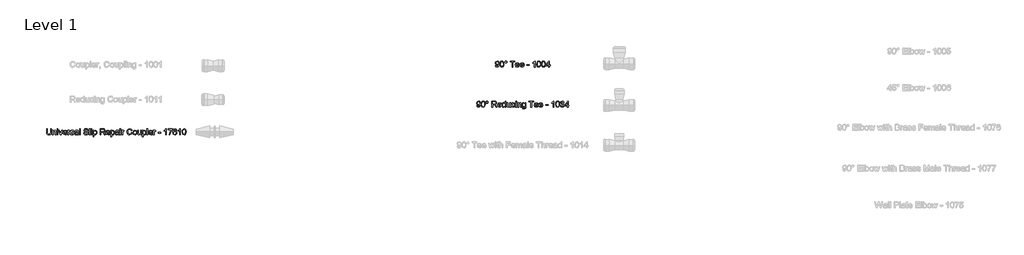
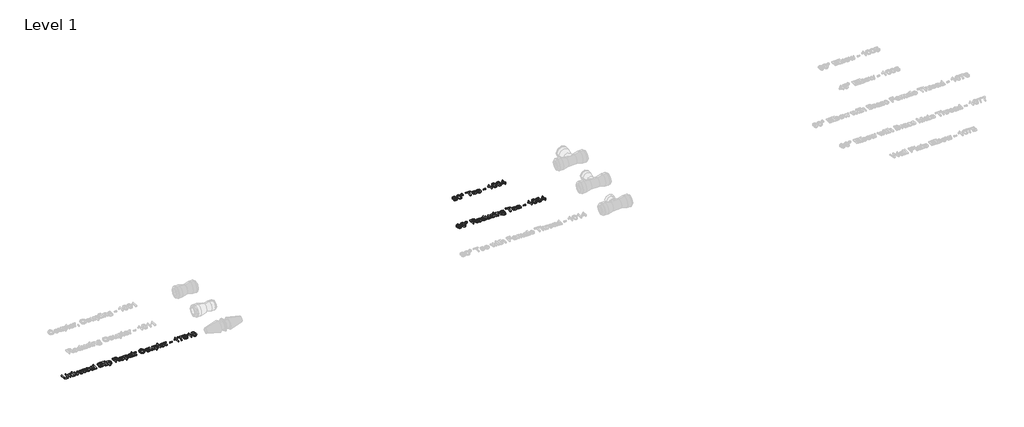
# One storey, part 2 of 13: 3 proxies.
"""IFC4 building model written with IfcOpenShell, lengths in millimetres."""

from ifc_helpers import new_model, si_unit, origin, origin_with_axes, place, context, project, spatial, polyline, outline, extrude, element, save

model = new_model("IFC4")

# Units and contexts
model_context = context("Model", 3, world=origin())
ifc_project = project(units=[si_unit("LENGTHUNIT", "METRE", prefix="MILLI")], contexts=[model_context])

# Site, building, storey
site = spatial("IfcSite", under=ifc_project)
building = spatial("IfcBuilding", under=site)
storey = spatial("IfcBuildingStorey", under=building, Name="Level 1", Elevation=0.0)

# Proxies
placement = place(None, origin())
element("IfcBuildingElementProxy", 1, Name="30 mm Arial", ObjectType="30 mm Arial", at=placement, inside=storey, context=model_context, shape_type="SweptSolid", body=[
    extrude(outline(polyline([(10167.5679255, 4651.4824027), (10171.2602332, 4651.9439412), (10172.9188871, 4648.4211046), (10176.0631178, 4647.3285566), (10179.0523005, 4648.0316816), (10181.0787428, 4649.9102873), (10182.2866755, 4653.119422), (10182.8203294, 4657.4030758), (10179.8455697, 4655.3261527), (10175.7962909, 4654.2516335), (10169.6268197, 4656.8766335), (10167.1063871, 4663.7924989), (10169.7494159, 4670.931922), (10176.373214, 4673.6362489), (10181.6340313, 4672.0929796), (10185.2542236, 4667.6939412), (10186.4910024, 4659.4295181), (10185.2578294, 4650.46197), (10181.5907621, 4645.3814412), (10175.8900409, 4643.6362489), (10170.2145601, 4645.6951431), (10167.5679255, 4651.4824027)]), holes=[polyline([(10182.7986947, 4663.8790373), (10181.2049447, 4668.306922), (10176.9717717, 4669.9439412), (10172.529464, 4668.18072), (10170.7986947, 4663.6122104), (10172.435714, 4659.5196623), (10176.8708101, 4657.9439412), (10181.1292236, 4659.5196623), (10182.7986947, 4663.8790373)])]), origin_with_axes(), (0.0, 0.0, 1.0), 5.0),
    extrude(outline(polyline([(10189.7217717, 4658.6290373), (10190.8071082, 4667.1278354), (10194.0306659, 4672.0280758), (10199.4140794, 4673.6362489), (10203.7265794, 4672.6843258), (10206.7049447, 4669.9403354), (10208.435714, 4665.5701431), (10209.1063871, 4658.6290373), (10208.0318678, 4650.166297), (10204.8191274, 4645.2552393), (10199.4140794, 4643.6362489), (10192.6640794, 4646.4487489), (10189.7217717, 4658.6290373)]), holes=[polyline([(10193.4140794, 4658.6362489), (10195.1448486, 4649.4667777), (10199.4140794, 4647.3285566), (10203.6833101, 4649.4739893), (10205.4140794, 4658.6362489), (10203.7410024, 4667.7011527), (10199.3708101, 4669.9439412), (10195.2025409, 4667.9679796), (10193.4140794, 4658.6362489)])]), origin_with_axes(), (0.0, 0.0, 1.0), 5.0),
    extrude(outline(polyline([(10213.2602332, 4668.5665373), (10214.8864351, 4672.4824027), (10218.7914832, 4674.0977873), (10222.7217717, 4672.4824027), (10224.3371563, 4668.5665373), (10222.7109544, 4664.6470662), (10218.7914832, 4663.0208643), (10214.8864351, 4664.6362489), (10213.2602332, 4668.5665373)]), holes=[polyline([(10215.5679255, 4668.5593258), (10216.5162428, 4666.2732681), (10218.8059063, 4665.3285566), (10221.0811467, 4666.2732681), (10222.029464, 4668.5593258), (10221.0811467, 4670.8453835), (10218.8059063, 4671.790095), (10216.5162428, 4670.8453835), (10215.5679255, 4668.5593258)])]), origin_with_axes(), (0.0, 0.0, 1.0), 5.0),
    extrude(outline(polyline([(10241.8756178, 4644.0977873), (10241.8756178, 4673.6362489), (10254.6039832, 4673.6362489), (10260.513839, 4672.8393739), (10263.7446082, 4670.0196623), (10264.9525409, 4665.5521143), (10262.951339, 4660.2299989), (10256.7674447, 4657.4824027), (10258.8660024, 4655.9030758), (10261.8587909, 4652.102595), (10266.7842717, 4644.0977873), (10262.4934063, 4644.0977873), (10258.6496563, 4650.2203835), (10255.873214, 4654.2732681), (10253.9224928, 4656.1879316), (10252.1664832, 4656.8910566), (10250.0246563, 4657.0208643), (10245.5679255, 4657.0208643), (10245.5679255, 4644.0977873), (10241.8756178, 4644.0977873)]), holes=[polyline([(10245.5679255, 4660.713172), (10253.8323486, 4660.713172), (10258.0474928, 4661.2360085), (10260.4417236, 4662.9090854), (10261.2602332, 4665.415095), (10259.6989351, 4668.6674989), (10254.7626371, 4669.9439412), (10245.5679255, 4669.9439412), (10245.5679255, 4660.713172)])]), origin_with_axes(), (0.0, 0.0, 1.0), 5.0),
    extrude(outline(polyline([(10286.1400409, 4650.5593258), (10289.7602332, 4650.0977873), (10286.3744159, 4645.3309604), (10280.0679255, 4643.6362489), (10272.4020601, 4646.5605277), (10269.5679255, 4654.7636527), (10272.4309063, 4663.2372104), (10279.8587909, 4666.2516335), (10287.0739351, 4663.244422), (10289.8756178, 4654.7852873), (10273.2602332, 4653.790095), (10275.3840313, 4648.994422), (10280.1400409, 4647.3285566), (10283.7602332, 4648.1001912), (10286.1400409, 4650.5593258)]), holes=[polyline([(10273.2602332, 4657.4824027), (10286.1833101, 4657.4824027), (10284.7049447, 4660.8285566), (10279.8443678, 4662.5593258), (10275.2974928, 4661.1783162), (10273.2602332, 4657.4824027)])]), origin_with_axes(), (0.0, 0.0, 1.0), 5.0),
    extrude(outline(polyline([(10306.9525409, 4644.0977873), (10306.9525409, 4647.5809604), (10301.1328294, 4643.6362489), (10296.560714, 4645.0641335), (10293.3299447, 4649.0485085), (10292.1833101, 4654.9223066), (10293.2398005, 4660.7997104), (10296.4056659, 4664.8453835), (10301.1184063, 4666.2516335), (10304.5222524, 4665.2456239), (10306.9525409, 4662.6314412), (10306.9525409, 4673.6362489), (10310.6448486, 4673.6362489), (10310.6448486, 4644.0977873), (10306.9525409, 4644.0977873)]), holes=[polyline([(10295.8756178, 4654.9367296), (10297.5414832, 4649.2215854), (10301.4717717, 4647.3285566), (10305.3551851, 4649.135047), (10306.9525409, 4654.6554796), (10305.326339, 4660.6482681), (10301.3203294, 4662.5593258), (10297.4333101, 4660.7239893), (10295.8756178, 4654.9367296)])]), origin_with_axes(), (0.0, 0.0, 1.0), 5.0),
    extrude(outline(polyline([(10330.029464, 4644.0977873), (10330.029464, 4647.8261527), (10323.3660024, 4643.6362489), (10319.8936467, 4644.3718258), (10317.4994159, 4646.2179796), (10316.3996563, 4648.9367296), (10316.1833101, 4652.369422), (10316.1833101, 4665.790095), (10319.8756178, 4665.790095), (10319.8756178, 4654.1074027), (10320.0991755, 4650.3429796), (10321.5595121, 4648.1326431), (10324.310714, 4647.3285566), (10327.3936467, 4648.150672), (10329.4309063, 4650.3898546), (10330.029464, 4654.5040373), (10330.029464, 4665.790095), (10333.7217717, 4665.790095), (10333.7217717, 4644.0977873), (10330.029464, 4644.0977873)])), origin_with_axes(), (0.0, 0.0, 1.0), 5.0),
    extrude(outline(polyline([(10352.6448486, 4651.9439412), (10356.3371563, 4651.4824027), (10353.373214, 4645.7167777), (10347.5174447, 4643.6362489), (10340.5186467, 4646.5388931), (10337.8756178, 4654.8646143), (10339.0042236, 4660.9980277), (10342.4441274, 4664.9391335), (10347.466964, 4666.2516335), (10353.0811467, 4664.4487489), (10355.8756178, 4659.3285566), (10352.1833101, 4658.8670181), (10350.4705697, 4661.6326431), (10347.4958101, 4662.5593258), (10343.2157621, 4660.7348066), (10341.5679255, 4654.9655758), (10343.1797044, 4649.1422585), (10347.3948486, 4647.3285566), (10350.8744159, 4648.4607681), (10352.6448486, 4651.9439412)])), origin_with_axes(), (0.0, 0.0, 1.0), 5.0),
    extrude(outline(polyline([(10359.5679255, 4669.9439412), (10359.5679255, 4673.6362489), (10363.2602332, 4673.6362489), (10363.2602332, 4669.9439412), (10359.5679255, 4669.9439412)])), origin_with_axes(), (0.0, 0.0, 1.0), 5.0),
    extrude(outline(polyline([(10359.5679255, 4644.0977873), (10359.5679255, 4665.790095), (10363.2602332, 4665.790095), (10363.2602332, 4644.0977873), (10359.5679255, 4644.0977873)])), origin_with_axes(), (0.0, 0.0, 1.0), 5.0),
    extrude(outline(polyline([(10368.7986947, 4644.0977873), (10368.7986947, 4665.790095), (10372.4910024, 4665.790095), (10372.4910024, 4662.7612489), (10379.1688871, 4666.2516335), (10382.6556659, 4665.5485085), (10385.0354736, 4663.7023546), (10386.1424447, 4660.9872104), (10386.3371563, 4657.4174989), (10386.3371563, 4644.0977873), (10382.6448486, 4644.0977873), (10382.6448486, 4656.9199027), (10382.2193678, 4660.1867296), (10380.7157621, 4661.9138931), (10378.1809063, 4662.5593258), (10374.1748967, 4661.1098066), (10372.4910024, 4655.6074027), (10372.4910024, 4644.0977873), (10368.7986947, 4644.0977873)])), origin_with_axes(), (0.0, 0.0, 1.0), 5.0),
    extrude(outline(polyline([(10390.4910024, 4642.2516335), (10394.1833101, 4641.790095), (10395.3804255, 4639.8429796), (10398.9645601, 4639.0208643), (10402.7434063, 4639.9511527), (10404.5462909, 4642.5617296), (10404.7986947, 4646.8670181), (10399.029464, 4644.0977873), (10392.3840313, 4647.321345), (10390.029464, 4655.0521143), (10391.0859544, 4660.77447), (10394.1436467, 4664.8237489), (10398.8491755, 4666.2516335), (10404.7986947, 4663.0208643), (10404.7986947, 4665.790095), (10408.4910024, 4665.790095), (10408.4910024, 4647.0617296), (10407.4813871, 4639.8898546), (10404.2830697, 4636.5545181), (10398.8924447, 4635.3285566), (10392.7518197, 4637.05572), (10390.4910024, 4642.2516335)]), holes=[polyline([(10393.7217717, 4655.3045181), (10395.2974928, 4649.5893739), (10399.2530217, 4647.790095), (10403.201339, 4649.5785566), (10404.7986947, 4655.196345), (10403.154464, 4660.7023546), (10399.1953294, 4662.5593258), (10395.3191274, 4660.7312008), (10393.7217717, 4655.3045181)])]), origin_with_axes(), (0.0, 0.0, 1.0), 5.0),
    extrude(outline(polyline([(10433.4140794, 4644.0977873), (10433.4140794, 4669.9439412), (10423.7217717, 4669.9439412), (10423.7217717, 4673.6362489), (10446.7986947, 4673.6362489), (10446.7986947, 4669.9439412), (10437.1063871, 4669.9439412), (10437.1063871, 4644.0977873), (10433.4140794, 4644.0977873)])), origin_with_axes(), (0.0, 0.0, 1.0), 5.0),
    extrude(outline(polyline([(10465.6785024, 4650.5593258), (10469.2986947, 4650.0977873), (10465.9128774, 4645.3309604), (10459.6063871, 4643.6362489), (10451.9405217, 4646.5605277), (10449.1063871, 4654.7636527), (10451.9693678, 4663.2372104), (10459.3972524, 4666.2516335), (10466.6123967, 4663.244422), (10469.4140794, 4654.7852873), (10452.7986947, 4653.790095), (10454.9224928, 4648.994422), (10459.6785024, 4647.3285566), (10463.2986947, 4648.1001912), (10465.6785024, 4650.5593258)]), holes=[polyline([(10452.7986947, 4657.4824027), (10465.7217717, 4657.4824027), (10464.2434063, 4660.8285566), (10459.3828294, 4662.5593258), (10454.8359544, 4661.1783162), (10452.7986947, 4657.4824027)])]), origin_with_axes(), (0.0, 0.0, 1.0), 5.0),
    extrude(outline(polyline([(10488.2938871, 4650.5593258), (10491.9140794, 4650.0977873), (10488.5282621, 4645.3309604), (10482.2217717, 4643.6362489), (10474.5559063, 4646.5605277), (10471.7217717, 4654.7636527), (10474.5847524, 4663.2372104), (10482.0126371, 4666.2516335), (10489.2277813, 4663.244422), (10492.029464, 4654.7852873), (10475.4140794, 4653.790095), (10477.5378774, 4648.994422), (10482.2938871, 4647.3285566), (10485.9140794, 4648.1001912), (10488.2938871, 4650.5593258)]), holes=[polyline([(10475.4140794, 4657.4824027), (10488.3371563, 4657.4824027), (10486.8587909, 4660.8285566), (10481.998214, 4662.5593258), (10477.451339, 4661.1783162), (10475.4140794, 4657.4824027)])]), origin_with_axes(), (0.0, 0.0, 1.0), 5.0),
    extrude(outline(polyline([(10505.4140794, 4652.8670181), (10505.4140794, 4656.5593258), (10516.9525409, 4656.5593258), (10516.9525409, 4652.8670181), (10505.4140794, 4652.8670181)])), origin_with_axes(), (0.0, 0.0, 1.0), 5.0),
    extrude(outline(polyline([(10545.5679255, 4644.0977873), (10541.8756178, 4644.0977873), (10541.8756178, 4667.1170181), (10538.3780217, 4664.6254316), (10534.4910024, 4662.7612489), (10534.4910024, 4666.2516335), (10539.9032621, 4669.7059604), (10543.1881178, 4673.6362489), (10545.5679255, 4673.6362489), (10545.5679255, 4644.0977873)])), origin_with_axes(), (0.0, 0.0, 1.0), 5.0),
    extrude(outline(polyline([(10554.3371563, 4658.6290373), (10555.4224928, 4667.1278354), (10558.6460505, 4672.0280758), (10564.029464, 4673.6362489), (10568.341964, 4672.6843258), (10571.3203294, 4669.9403354), (10573.0510986, 4665.5701431), (10573.7217717, 4658.6290373), (10572.6472524, 4650.166297), (10569.4345121, 4645.2552393), (10564.029464, 4643.6362489), (10557.279464, 4646.4487489), (10554.3371563, 4658.6290373)]), holes=[polyline([(10558.029464, 4658.6362489), (10559.7602332, 4649.4667777), (10564.029464, 4647.3285566), (10568.2986947, 4649.4739893), (10570.029464, 4658.6362489), (10568.3563871, 4667.7011527), (10563.9861947, 4669.9439412), (10559.8179255, 4667.9679796), (10558.029464, 4658.6362489)])]), origin_with_axes(), (0.0, 0.0, 1.0), 5.0),
    extrude(outline(polyline([(10576.9525409, 4651.9439412), (10580.6448486, 4652.4054796), (10582.6821082, 4648.5184604), (10586.4934063, 4647.3285566), (10590.9789832, 4648.9655758), (10592.6448486, 4653.0184604), (10590.9934063, 4656.83697), (10586.7962909, 4658.3477873), (10584.2073486, 4657.9439412), (10584.6184063, 4661.6362489), (10589.3996563, 4662.6530758), (10591.2602332, 4665.9126912), (10589.9116755, 4668.8009123), (10586.435714, 4669.9439412), (10582.9164832, 4668.790095), (10581.1063871, 4665.3285566), (10577.4140794, 4665.790095), (10580.435714, 4671.5809604), (10586.3059063, 4673.6362489), (10590.7590313, 4672.6230277), (10593.8744159, 4669.853797), (10594.9525409, 4666.1290373), (10593.9285024, 4662.7251912), (10590.8996563, 4660.2804796), (10594.9236947, 4657.7564412), (10596.3371563, 4652.9535566), (10593.5102332, 4646.3477873), (10586.3635986, 4643.6362489), (10579.8876371, 4645.9511527), (10576.9525409, 4651.9439412)])), origin_with_axes(), (0.0, 0.0, 1.0), 5.0),
    extrude(outline(polyline([(10611.5679255, 4644.0977873), (10611.5679255, 4651.0208643), (10598.1833101, 4651.0208643), (10598.1833101, 4654.713172), (10612.4910024, 4673.1747104), (10615.2602332, 4673.1747104), (10615.2602332, 4654.713172), (10618.9525409, 4654.713172), (10618.9525409, 4651.0208643), (10615.2602332, 4651.0208643), (10615.2602332, 4644.0977873), (10611.5679255, 4644.0977873)]), holes=[polyline([(10611.5679255, 4654.713172), (10611.5679255, 4666.1218258), (10602.7265794, 4654.713172), (10611.5679255, 4654.713172)])]), origin_with_axes(), (0.0, 0.0, 1.0), 5.0),
])
element("IfcBuildingElementProxy", 2, Name="30 mm Arial", ObjectType="30 mm Arial", at=placement, inside=storey, context=model_context, shape_type="SweptSolid", body=[
    extrude(outline(polyline([(8081.7590852, 4538.436417), (8085.4513928, 4538.436417), (8085.4513928, 4521.3955516), (8084.448989, 4514.3318497), (8080.8360082, 4510.077042), (8073.9850467, 4508.436417), (8067.2386525, 4509.8643016), (8063.495864, 4514.0001189), (8062.3744698, 4521.3955516), (8062.3744698, 4538.436417), (8066.0667775, 4538.436417), (8066.0667775, 4521.5253593), (8066.7951428, 4515.8967535), (8069.2975467, 4513.1094939), (8073.6388928, 4512.1287247), (8079.8912967, 4514.0686285), (8081.7590852, 4521.5253593), (8081.7590852, 4538.436417)])), origin_with_axes(), (0.0, 0.0, 1.0), 5.0),
    extrude(outline(polyline([(8091.4513928, 4508.8979554), (8091.4513928, 4530.5902631), (8095.1437005, 4530.5902631), (8095.1437005, 4527.561417), (8101.8215852, 4531.0518016), (8105.308364, 4530.3486766), (8107.6881717, 4528.5025227), (8108.7951428, 4525.7873785), (8108.9898544, 4522.217667), (8108.9898544, 4508.8979554), (8105.2975467, 4508.8979554), (8105.2975467, 4521.7200708), (8104.8720659, 4524.9868977), (8103.3684602, 4526.7140612), (8100.8336044, 4527.3594939), (8096.8275948, 4525.9099747), (8095.1437005, 4520.4075708), (8095.1437005, 4508.8979554), (8091.4513928, 4508.8979554)])), origin_with_axes(), (0.0, 0.0, 1.0), 5.0),
    extrude(outline(polyline([(8114.0667775, 4534.7441093), (8114.0667775, 4538.436417), (8117.7590852, 4538.436417), (8117.7590852, 4534.7441093), (8114.0667775, 4534.7441093)])), origin_with_axes(), (0.0, 0.0, 1.0), 5.0),
    extrude(outline(polyline([(8114.0667775, 4508.8979554), (8114.0667775, 4530.5902631), (8117.7590852, 4530.5902631), (8117.7590852, 4508.8979554), (8114.0667775, 4508.8979554)])), origin_with_axes(), (0.0, 0.0, 1.0), 5.0),
    extrude(outline(polyline([(8128.6196621, 4508.8979554), (8120.9898544, 4530.5902631), (8124.8985082, 4530.5902631), (8129.5211044, 4517.5950708), (8130.9129313, 4513.2248785), (8132.2759121, 4517.3498785), (8136.9273544, 4530.5902631), (8140.8360082, 4530.5902631), (8133.2999505, 4508.8979554), (8128.6196621, 4508.8979554)])), origin_with_axes(), (0.0, 0.0, 1.0), 5.0),
    extrude(outline(polyline([(8159.2542775, 4515.3594939), (8162.8744698, 4514.8979554), (8159.4886525, 4510.1311285), (8153.1821621, 4508.436417), (8145.5162967, 4511.3606958), (8142.6821621, 4519.5638208), (8145.5451428, 4528.0373785), (8152.9730275, 4531.0518016), (8160.1881717, 4528.0445901), (8162.9898544, 4519.5854554), (8146.3744698, 4518.5902631), (8148.4982678, 4513.7945901), (8153.2542775, 4512.1287247), (8156.8744698, 4512.9003593), (8159.2542775, 4515.3594939)]), holes=[polyline([(8146.3744698, 4522.2825708), (8159.2975467, 4522.2825708), (8157.8191813, 4525.6287247), (8152.9586044, 4527.3594939), (8148.4117294, 4525.9784843), (8146.3744698, 4522.2825708)])]), origin_with_axes(), (0.0, 0.0, 1.0), 5.0),
    extrude(outline(polyline([(8166.6821621, 4508.8979554), (8166.6821621, 4530.5902631), (8169.9129313, 4530.5902631), (8169.9129313, 4527.3811285), (8172.2062005, 4530.3378593), (8174.5138928, 4531.0518016), (8178.2206236, 4529.9123785), (8176.9874505, 4526.6022824), (8174.3912967, 4527.3594939), (8172.3035563, 4526.6311285), (8170.9730275, 4524.6118977), (8170.3744698, 4520.2993977), (8170.3744698, 4508.8979554), (8166.6821621, 4508.8979554)])), origin_with_axes(), (0.0, 0.0, 1.0), 5.0),
    extrude(outline(polyline([(8179.1437005, 4515.3594939), (8182.8360082, 4515.8210324), (8184.5451428, 4513.0806477), (8188.4610082, 4512.1287247), (8192.2254313, 4513.0013208), (8193.4513928, 4515.0493977), (8192.2182198, 4516.7080516), (8188.417739, 4517.7609362), (8182.8576428, 4519.5674266), (8180.4309602, 4521.6768016), (8179.605239, 4524.655167), (8180.2687005, 4527.4063689), (8182.0787967, 4529.5085324), (8184.4261525, 4530.6010804), (8187.6028352, 4531.0518016), (8192.0956236, 4530.327042), (8194.9513928, 4528.3655035), (8196.2206236, 4525.0518016), (8192.5283159, 4524.5902631), (8191.1400948, 4526.6275227), (8187.8912967, 4527.3594939), (8184.3576428, 4526.6599747), (8183.2975467, 4525.030167), (8185.1148544, 4523.1407439), (8188.2951428, 4522.3546862), (8193.714614, 4520.6167054), (8196.2314409, 4518.6479554), (8197.1437005, 4515.4388208), (8196.0727871, 4511.905167), (8192.9826428, 4509.3414651), (8188.4105275, 4508.436417), (8181.9706236, 4510.1816093), (8179.1437005, 4515.3594939)])), origin_with_axes(), (0.0, 0.0, 1.0), 5.0),
    extrude(outline(polyline([(8215.1437005, 4511.6671862), (8211.5631717, 4509.1647824), (8207.6076428, 4508.436417), (8202.245864, 4510.1888208), (8200.3744698, 4514.6671862), (8201.0812005, 4517.5878593), (8202.9381717, 4519.7080516), (8205.5235082, 4520.9195901), (8208.7182198, 4521.4748785), (8215.1220659, 4522.7441093), (8214.1268736, 4526.2921862), (8210.0451428, 4527.3594939), (8206.3095659, 4526.6491574), (8204.5283159, 4524.1287247), (8200.8360082, 4524.5902631), (8202.433364, 4528.1960324), (8205.6497102, 4530.3090131), (8210.5211044, 4531.0518016), (8214.995864, 4530.3955516), (8217.5235082, 4528.7477151), (8218.6557198, 4526.2417054), (8218.8360082, 4523.0109362), (8218.8360082, 4518.4171862), (8219.0235082, 4512.0025227), (8219.7590852, 4508.8979554), (8216.0667775, 4508.8979554), (8215.1437005, 4511.6671862)]), holes=[polyline([(8215.1328832, 4518.5289651), (8209.1869698, 4517.9195901), (8206.0102871, 4517.3210324), (8204.5715852, 4516.3474747), (8205.1665371, 4512.9292054), (8208.3937005, 4512.1287247), (8212.1292775, 4513.0121381), (8214.5379313, 4515.1503593), (8215.1328832, 4518.5289651)])]), origin_with_axes(), (0.0, 0.0, 1.0), 5.0),
    extrude(outline(polyline([(8223.9129313, 4508.8979554), (8223.9129313, 4538.436417), (8227.605239, 4538.436417), (8227.605239, 4508.8979554), (8223.9129313, 4508.8979554)])), origin_with_axes(), (0.0, 0.0, 1.0), 5.0),
    extrude(outline(polyline([(8243.7590852, 4519.0518016), (8247.4513928, 4519.0518016), (8248.6412967, 4515.3558881), (8251.5475467, 4513.0193497), (8255.9754313, 4512.1287247), (8259.8336044, 4512.8030035), (8262.3251909, 4514.6563689), (8263.1437005, 4517.1335324), (8262.5307198, 4519.4376189), (8260.0211044, 4521.1143016), (8254.6449025, 4522.5241574), (8248.8576428, 4524.3450708), (8245.7170178, 4527.092667), (8244.6821621, 4530.7633401), (8245.9622102, 4534.9424266), (8249.7013928, 4537.8919458), (8255.1749505, 4538.8979554), (8261.0162967, 4537.8450708), (8264.9105275, 4534.7513208), (8266.3744698, 4530.1287247), (8262.6821621, 4530.1287247), (8260.5908159, 4533.9219939), (8255.3191813, 4535.2056477), (8250.0331236, 4533.936417), (8248.3744698, 4530.8715131), (8249.5499505, 4528.311417), (8255.5787967, 4526.248917), (8262.1124505, 4524.3955516), (8265.6857678, 4521.4027631), (8266.8360082, 4517.2272824), (8265.5126909, 4512.8102151), (8261.7049986, 4509.5866574), (8256.1196621, 4508.436417), (8249.5247102, 4509.6768016), (8245.3528352, 4513.4123785), (8243.7590852, 4519.0518016)])), origin_with_axes(), (0.0, 0.0, 1.0), 5.0),
    extrude(outline(polyline([(8271.9129313, 4508.8979554), (8271.9129313, 4538.436417), (8275.605239, 4538.436417), (8275.605239, 4508.8979554), (8271.9129313, 4508.8979554)])), origin_with_axes(), (0.0, 0.0, 1.0), 5.0),
    extrude(outline(polyline([(8281.1437005, 4534.7441093), (8281.1437005, 4538.436417), (8284.8360082, 4538.436417), (8284.8360082, 4534.7441093), (8281.1437005, 4534.7441093)])), origin_with_axes(), (0.0, 0.0, 1.0), 5.0),
    extrude(outline(polyline([(8281.1437005, 4508.8979554), (8281.1437005, 4530.5902631), (8284.8360082, 4530.5902631), (8284.8360082, 4508.8979554), (8281.1437005, 4508.8979554)])), origin_with_axes(), (0.0, 0.0, 1.0), 5.0),
    extrude(outline(polyline([(8290.3744698, 4500.5902631), (8290.3744698, 4530.5902631), (8294.0667775, 4530.5902631), (8294.0667775, 4526.9700708), (8296.6196621, 4530.0313689), (8300.0667775, 4531.0518016), (8304.7470659, 4529.623917), (8307.8047582, 4525.5998785), (8308.8360082, 4519.9099747), (8307.6713448, 4513.9280035), (8304.2891332, 4509.8534843), (8299.6196621, 4508.436417), (8296.4069217, 4509.3847343), (8294.0667775, 4511.7825708), (8294.0667775, 4500.5902631), (8290.3744698, 4500.5902631)]), holes=[polyline([(8294.0667775, 4519.5710324), (8295.6641332, 4513.9460324), (8299.5403352, 4512.1287247), (8303.495864, 4514.0109362), (8305.1437005, 4519.8450708), (8303.5355275, 4525.4844939), (8299.6917775, 4527.3594939), (8295.7723063, 4525.3655035), (8294.0667775, 4519.5710324)])]), origin_with_axes(), (0.0, 0.0, 1.0), 5.0),
    extrude(outline(polyline([(8324.9898544, 4508.8979554), (8324.9898544, 4538.436417), (8337.7182198, 4538.436417), (8343.6280755, 4537.639542), (8346.8588448, 4534.8198304), (8348.0667775, 4530.3522824), (8346.0655755, 4525.030167), (8339.8816813, 4522.2825708), (8341.980239, 4520.7032439), (8344.9730275, 4516.9027631), (8349.8985082, 4508.8979554), (8345.6076428, 4508.8979554), (8341.7638928, 4515.0205516), (8338.9874505, 4519.0734362), (8337.0367294, 4520.9880997), (8335.2807198, 4521.6912247), (8333.1388928, 4521.8210324), (8328.6821621, 4521.8210324), (8328.6821621, 4508.8979554), (8324.9898544, 4508.8979554)]), holes=[polyline([(8328.6821621, 4525.5133401), (8336.9465852, 4525.5133401), (8341.1617294, 4526.0361766), (8343.5559602, 4527.7092535), (8344.3744698, 4530.2152631), (8342.8131717, 4533.467667), (8337.8768736, 4534.7441093), (8328.6821621, 4534.7441093), (8328.6821621, 4525.5133401)])]), origin_with_axes(), (0.0, 0.0, 1.0), 5.0),
    extrude(outline(polyline([(8369.2542775, 4515.3594939), (8372.8744698, 4514.8979554), (8369.4886525, 4510.1311285), (8363.1821621, 4508.436417), (8355.5162967, 4511.3606958), (8352.6821621, 4519.5638208), (8355.5451428, 4528.0373785), (8362.9730275, 4531.0518016), (8370.1881717, 4528.0445901), (8372.9898544, 4519.5854554), (8356.3744698, 4518.5902631), (8358.4982678, 4513.7945901), (8363.2542775, 4512.1287247), (8366.8744698, 4512.9003593), (8369.2542775, 4515.3594939)]), holes=[polyline([(8356.3744698, 4522.2825708), (8369.2975467, 4522.2825708), (8367.8191813, 4525.6287247), (8362.9586044, 4527.3594939), (8358.4117294, 4525.9784843), (8356.3744698, 4522.2825708)])]), origin_with_axes(), (0.0, 0.0, 1.0), 5.0),
    extrude(outline(polyline([(8376.6821621, 4500.5902631), (8376.6821621, 4530.5902631), (8380.3744698, 4530.5902631), (8380.3744698, 4526.9700708), (8382.9273544, 4530.0313689), (8386.3744698, 4531.0518016), (8391.0547582, 4529.623917), (8394.1124505, 4525.5998785), (8395.1437005, 4519.9099747), (8393.9790371, 4513.9280035), (8390.5968255, 4509.8534843), (8385.9273544, 4508.436417), (8382.714614, 4509.3847343), (8380.3744698, 4511.7825708), (8380.3744698, 4500.5902631), (8376.6821621, 4500.5902631)]), holes=[polyline([(8380.3744698, 4519.5710324), (8381.9718255, 4513.9460324), (8385.8480275, 4512.1287247), (8389.8035563, 4514.0109362), (8391.4513928, 4519.8450708), (8389.8432198, 4525.4844939), (8385.9994698, 4527.3594939), (8382.0799986, 4525.3655035), (8380.3744698, 4519.5710324)])]), origin_with_axes(), (0.0, 0.0, 1.0), 5.0),
    extrude(outline(polyline([(8413.1437005, 4511.6671862), (8409.5631717, 4509.1647824), (8405.6076428, 4508.436417), (8400.245864, 4510.1888208), (8398.3744698, 4514.6671862), (8399.0812005, 4517.5878593), (8400.9381717, 4519.7080516), (8403.5235082, 4520.9195901), (8406.7182198, 4521.4748785), (8413.1220659, 4522.7441093), (8412.1268736, 4526.2921862), (8408.0451428, 4527.3594939), (8404.3095659, 4526.6491574), (8402.5283159, 4524.1287247), (8398.8360082, 4524.5902631), (8400.433364, 4528.1960324), (8403.6497102, 4530.3090131), (8408.5211044, 4531.0518016), (8412.995864, 4530.3955516), (8415.5235082, 4528.7477151), (8416.6557198, 4526.2417054), (8416.8360082, 4523.0109362), (8416.8360082, 4518.4171862), (8417.0235082, 4512.0025227), (8417.7590852, 4508.8979554), (8414.0667775, 4508.8979554), (8413.1437005, 4511.6671862)]), holes=[polyline([(8413.1328832, 4518.5289651), (8407.1869698, 4517.9195901), (8404.0102871, 4517.3210324), (8402.5715852, 4516.3474747), (8403.1665371, 4512.9292054), (8406.3937005, 4512.1287247), (8410.1292775, 4513.0121381), (8412.5379313, 4515.1503593), (8413.1328832, 4518.5289651)])]), origin_with_axes(), (0.0, 0.0, 1.0), 5.0),
    extrude(outline(polyline([(8421.9129313, 4508.8979554), (8421.9129313, 4530.5902631), (8425.605239, 4530.5902631), (8425.605239, 4508.8979554), (8421.9129313, 4508.8979554)])), origin_with_axes(), (0.0, 0.0, 1.0), 5.0),
    extrude(outline(polyline([(8421.9129313, 4534.7441093), (8421.9129313, 4538.436417), (8425.605239, 4538.436417), (8425.605239, 4534.7441093), (8421.9129313, 4534.7441093)])), origin_with_axes(), (0.0, 0.0, 1.0), 5.0),
    extrude(outline(polyline([(8431.1437005, 4508.8979554), (8431.1437005, 4530.5902631), (8434.3744698, 4530.5902631), (8434.3744698, 4527.3811285), (8436.667739, 4530.3378593), (8438.9754313, 4531.0518016), (8442.6821621, 4529.9123785), (8441.448989, 4526.6022824), (8438.8528352, 4527.3594939), (8436.7650948, 4526.6311285), (8435.4345659, 4524.6118977), (8434.8360082, 4520.2993977), (8434.8360082, 4508.8979554), (8431.1437005, 4508.8979554)])), origin_with_axes(), (0.0, 0.0, 1.0), 5.0),
    extrude(outline(polyline([(8477.7590852, 4519.3979554), (8481.4513928, 4518.4460324), (8477.073989, 4511.0001189), (8469.3432198, 4508.436417), (8461.6593255, 4510.3763208), (8457.152114, 4515.9941093), (8455.605239, 4523.8907439), (8457.3540371, 4531.9171862), (8462.3263928, 4537.1203112), (8469.4225467, 4538.8979554), (8476.8179794, 4536.5974747), (8480.9898544, 4530.1215131), (8477.2975467, 4529.2417054), (8474.2687005, 4533.7813689), (8469.2783159, 4535.2056477), (8463.5018736, 4533.6263208), (8460.2386525, 4529.3859362), (8459.2975467, 4523.8979554), (8460.4117294, 4517.5373785), (8463.8804794, 4513.4736766), (8468.9754313, 4512.1287247), (8474.6256717, 4513.9604554), (8477.7590852, 4519.3979554)])), origin_with_axes(), (0.0, 0.0, 1.0), 5.0),
    extrude(outline(polyline([(8485.1437005, 4519.7441093), (8488.3384121, 4528.6503593), (8494.8432198, 4531.0518016), (8501.8203832, 4528.1275227), (8504.5283159, 4520.0469939), (8503.3312005, 4513.4772824), (8499.8444217, 4509.7597343), (8494.8432198, 4508.436417), (8487.8227871, 4511.3498785), (8485.1437005, 4519.7441093)]), holes=[polyline([(8488.8360082, 4519.7513208), (8490.5451428, 4514.0289651), (8494.8432198, 4512.1287247), (8499.1268736, 4514.0397824), (8500.8360082, 4519.8667054), (8499.1160563, 4525.4592535), (8494.8432198, 4527.3594939), (8490.5451428, 4525.4664651), (8488.8360082, 4519.7513208)])]), origin_with_axes(), (0.0, 0.0, 1.0), 5.0),
    extrude(outline(polyline([(8522.5283159, 4508.8979554), (8522.5283159, 4512.6263208), (8515.8648544, 4508.436417), (8512.3924986, 4509.1719939), (8509.9982678, 4511.0181477), (8508.8985082, 4513.7368977), (8508.6821621, 4517.1695901), (8508.6821621, 4530.5902631), (8512.3744698, 4530.5902631), (8512.3744698, 4518.9075708), (8512.5980275, 4515.1431477), (8514.058364, 4512.9328112), (8516.8095659, 4512.1287247), (8519.8924986, 4512.9508401), (8521.9297582, 4515.1900227), (8522.5283159, 4519.3042054), (8522.5283159, 4530.5902631), (8526.2206236, 4530.5902631), (8526.2206236, 4508.8979554), (8522.5283159, 4508.8979554)])), origin_with_axes(), (0.0, 0.0, 1.0), 5.0),
    extrude(outline(polyline([(8531.2975467, 4500.5902631), (8531.2975467, 4530.5902631), (8534.9898544, 4530.5902631), (8534.9898544, 4526.9700708), (8537.542739, 4530.0313689), (8540.9898544, 4531.0518016), (8545.6701428, 4529.623917), (8548.7278352, 4525.5998785), (8549.7590852, 4519.9099747), (8548.5944217, 4513.9280035), (8545.2122102, 4509.8534843), (8540.542739, 4508.436417), (8537.3299986, 4509.3847343), (8534.9898544, 4511.7825708), (8534.9898544, 4500.5902631), (8531.2975467, 4500.5902631)]), holes=[polyline([(8534.9898544, 4519.5710324), (8536.5872102, 4513.9460324), (8540.4634121, 4512.1287247), (8544.4189409, 4514.0109362), (8546.0667775, 4519.8450708), (8544.4586044, 4525.4844939), (8540.6148544, 4527.3594939), (8536.6953832, 4525.3655035), (8534.9898544, 4519.5710324)])]), origin_with_axes(), (0.0, 0.0, 1.0), 5.0),
    extrude(outline(polyline([(8553.9129313, 4508.8979554), (8553.9129313, 4538.436417), (8557.605239, 4538.436417), (8557.605239, 4508.8979554), (8553.9129313, 4508.8979554)])), origin_with_axes(), (0.0, 0.0, 1.0), 5.0),
    extrude(outline(polyline([(8578.3312005, 4515.3594939), (8581.9513928, 4514.8979554), (8578.5655755, 4510.1311285), (8572.2590852, 4508.436417), (8564.5932198, 4511.3606958), (8561.7590852, 4519.5638208), (8564.6220659, 4528.0373785), (8572.0499505, 4531.0518016), (8579.2650948, 4528.0445901), (8582.0667775, 4519.5854554), (8565.4513928, 4518.5902631), (8567.5751909, 4513.7945901), (8572.3312005, 4512.1287247), (8575.9513928, 4512.9003593), (8578.3312005, 4515.3594939)]), holes=[polyline([(8565.4513928, 4522.2825708), (8578.3744698, 4522.2825708), (8576.8961044, 4525.6287247), (8572.0355275, 4527.3594939), (8567.4886525, 4525.9784843), (8565.4513928, 4522.2825708)])]), origin_with_axes(), (0.0, 0.0, 1.0), 5.0),
    extrude(outline(polyline([(8585.7590852, 4508.8979554), (8585.7590852, 4530.5902631), (8588.9898544, 4530.5902631), (8588.9898544, 4527.3811285), (8591.2831236, 4530.3378593), (8593.5908159, 4531.0518016), (8597.2975467, 4529.9123785), (8596.0643736, 4526.6022824), (8593.4682198, 4527.3594939), (8591.3804794, 4526.6311285), (8590.0499505, 4524.6118977), (8589.4513928, 4520.2993977), (8589.4513928, 4508.8979554), (8585.7590852, 4508.8979554)])), origin_with_axes(), (0.0, 0.0, 1.0), 5.0),
    extrude(outline(polyline([(8609.2975467, 4517.6671862), (8609.2975467, 4521.3594939), (8620.8360082, 4521.3594939), (8620.8360082, 4517.6671862), (8609.2975467, 4517.6671862)])), origin_with_axes(), (0.0, 0.0, 1.0), 5.0),
    extrude(outline(polyline([(8649.4513928, 4508.8979554), (8645.7590852, 4508.8979554), (8645.7590852, 4531.9171862), (8642.261489, 4529.4255997), (8638.3744698, 4527.561417), (8638.3744698, 4531.0518016), (8643.7867294, 4534.5061285), (8647.0715852, 4538.436417), (8649.4513928, 4538.436417), (8649.4513928, 4508.8979554)])), origin_with_axes(), (0.0, 0.0, 1.0), 5.0),
    extrude(outline(polyline([(8658.2206236, 4534.2825708), (8658.2206236, 4537.9748785), (8677.605239, 4537.9748785), (8677.605239, 4534.9893016), (8672.1064409, 4527.045792), (8667.8985082, 4516.9243977), (8666.5283159, 4508.8979554), (8662.8360082, 4508.8979554), (8664.3035563, 4517.2272824), (8668.3312005, 4526.6419458), (8673.9129313, 4534.2825708), (8658.2206236, 4534.2825708)])), origin_with_axes(), (0.0, 0.0, 1.0), 5.0),
    extrude(outline(polyline([(8699.7590852, 4530.5902631), (8696.0667775, 4530.1287247), (8694.667739, 4533.2080516), (8690.9682198, 4534.7441093), (8687.636489, 4533.8498785), (8685.1160563, 4530.4929074), (8684.0667775, 4523.9123785), (8687.3227871, 4526.858292), (8691.3576428, 4527.8210324), (8697.6316813, 4525.1888208), (8700.2206236, 4518.3883401), (8699.0018736, 4513.2933881), (8695.6485082, 4509.6876189), (8690.8095659, 4508.436417), (8683.2843255, 4511.7537247), (8680.3744698, 4522.686417), (8683.605239, 4535.0686285), (8691.198989, 4538.436417), (8697.0331236, 4536.3522824), (8699.7590852, 4530.5902631)]), holes=[polyline([(8684.0667775, 4518.4460324), (8684.9213448, 4515.2477151), (8687.1929794, 4512.9255997), (8690.5211044, 4512.1287247), (8694.8732678, 4513.780167), (8696.5283159, 4518.2657439), (8694.8949025, 4522.5602151), (8690.3696621, 4524.1287247), (8685.902114, 4522.5602151), (8684.0667775, 4518.4460324)])]), origin_with_axes(), (0.0, 0.0, 1.0), 5.0),
    extrude(outline(polyline([(8717.2975467, 4508.8979554), (8713.605239, 4508.8979554), (8713.605239, 4531.9171862), (8710.1076428, 4529.4255997), (8706.2206236, 4527.561417), (8706.2206236, 4531.0518016), (8711.6328832, 4534.5061285), (8714.917739, 4538.436417), (8717.2975467, 4538.436417), (8717.2975467, 4508.8979554)])), origin_with_axes(), (0.0, 0.0, 1.0), 5.0),
    extrude(outline(polyline([(8726.0667775, 4523.4292054), (8727.152114, 4531.9280035), (8730.3756717, 4536.8282439), (8735.7590852, 4538.436417), (8740.0715852, 4537.4844939), (8743.0499505, 4534.7405035), (8744.7807198, 4530.3703112), (8745.4513928, 4523.4292054), (8744.3768736, 4514.9664651), (8741.1641332, 4510.0554074), (8735.7590852, 4508.436417), (8729.0090852, 4511.248917), (8726.0667775, 4523.4292054)]), holes=[polyline([(8729.7590852, 4523.436417), (8731.4898544, 4514.2669458), (8735.7590852, 4512.1287247), (8740.0283159, 4514.2741574), (8741.7590852, 4523.436417), (8740.0860082, 4532.5013208), (8735.7158159, 4534.7441093), (8731.5475467, 4532.7681477), (8729.7590852, 4523.436417)])]), origin_with_axes(), (0.0, 0.0, 1.0), 5.0),
])
element("IfcBuildingElementProxy", 3, Name="30 mm Arial", ObjectType="30 mm Arial", at=placement, inside=storey, context=model_context, shape_type="SweptSolid", body=[
    extrude(outline(polyline([(10259.6448486, 4847.9256461), (10263.3371563, 4848.3871846), (10264.9958101, 4844.864348), (10268.1400409, 4843.7718), (10271.1292236, 4844.474925), (10273.1556659, 4846.3535307), (10274.3635986, 4849.5626653), (10274.8972524, 4853.8463192), (10271.9224928, 4851.7693961), (10267.873214, 4850.6948769), (10261.7037428, 4853.3198769), (10259.1833101, 4860.2357423), (10261.826339, 4867.3751653), (10268.4501371, 4870.0794923), (10273.7109544, 4868.536223), (10277.3311467, 4864.1371846), (10278.5679255, 4855.8727615), (10277.3347524, 4846.9052134), (10273.6676851, 4841.8246846), (10267.966964, 4840.0794923), (10262.2914832, 4842.1383865), (10259.6448486, 4847.9256461)]), holes=[polyline([(10274.8756178, 4860.3222807), (10273.2818678, 4864.7501653), (10269.0486947, 4866.3871846), (10264.6063871, 4864.6239634), (10262.8756178, 4860.0554538), (10264.5126371, 4855.9629057), (10268.9477332, 4854.3871846), (10273.2061467, 4855.9629057), (10274.8756178, 4860.3222807)])]), origin_with_axes(), (0.0, 0.0, 1.0), 5.0),
    extrude(outline(polyline([(10281.7986947, 4855.0722807), (10282.8840313, 4863.5710788), (10286.107589, 4868.4713192), (10291.4910024, 4870.0794923), (10295.8035024, 4869.1275692), (10298.7818678, 4866.3835788), (10300.5126371, 4862.0133865), (10301.1833101, 4855.0722807), (10300.1087909, 4846.6095403), (10296.8960505, 4841.6984827), (10291.4910024, 4840.0794923), (10284.7410024, 4842.8919923), (10281.7986947, 4855.0722807)]), holes=[polyline([(10285.4910024, 4855.0794923), (10287.2217717, 4845.9100211), (10291.4910024, 4843.7718), (10295.7602332, 4845.9172327), (10297.4910024, 4855.0794923), (10295.8179255, 4864.1443961), (10291.4477332, 4866.3871846), (10287.279464, 4864.411223), (10285.4910024, 4855.0794923)])]), origin_with_axes(), (0.0, 0.0, 1.0), 5.0),
    extrude(outline(polyline([(10305.3371563, 4865.0097807), (10306.9633582, 4868.9256461), (10310.8684063, 4870.5410307), (10314.7986947, 4868.9256461), (10316.4140794, 4865.0097807), (10314.7878774, 4861.0903096), (10310.8684063, 4859.4641077), (10306.9633582, 4861.0794923), (10305.3371563, 4865.0097807)]), holes=[polyline([(10307.6448486, 4865.0025692), (10308.5931659, 4862.7165115), (10310.8828294, 4861.7718), (10313.1580697, 4862.7165115), (10314.1063871, 4865.0025692), (10313.1580697, 4867.2886269), (10310.8828294, 4868.2333384), (10308.5931659, 4867.2886269), (10307.6448486, 4865.0025692)])]), origin_with_axes(), (0.0, 0.0, 1.0), 5.0),
    extrude(outline(polyline([(10341.3371563, 4840.5410307), (10341.3371563, 4866.3871846), (10331.6448486, 4866.3871846), (10331.6448486, 4870.0794923), (10354.7217717, 4870.0794923), (10354.7217717, 4866.3871846), (10345.029464, 4866.3871846), (10345.029464, 4840.5410307), (10341.3371563, 4840.5410307)])), origin_with_axes(), (0.0, 0.0, 1.0), 5.0),
    extrude(outline(polyline([(10373.6015794, 4847.0025692), (10377.2217717, 4846.5410307), (10373.8359544, 4841.7742038), (10367.529464, 4840.0794923), (10359.8635986, 4843.0037711), (10357.029464, 4851.2068961), (10359.8924447, 4859.6804538), (10367.3203294, 4862.6948769), (10374.5354736, 4859.6876653), (10377.3371563, 4851.2285307), (10360.7217717, 4850.2333384), (10362.8455697, 4845.4376653), (10367.6015794, 4843.7718), (10371.2217717, 4844.5434346), (10373.6015794, 4847.0025692)]), holes=[polyline([(10360.7217717, 4853.9256461), (10373.6448486, 4853.9256461), (10372.1664832, 4857.2718), (10367.3059063, 4859.0025692), (10362.7590313, 4857.6215596), (10360.7217717, 4853.9256461)])]), origin_with_axes(), (0.0, 0.0, 1.0), 5.0),
    extrude(outline(polyline([(10396.216964, 4847.0025692), (10399.8371563, 4846.5410307), (10396.451339, 4841.7742038), (10390.1448486, 4840.0794923), (10382.4789832, 4843.0037711), (10379.6448486, 4851.2068961), (10382.5078294, 4859.6804538), (10389.935714, 4862.6948769), (10397.1508582, 4859.6876653), (10399.9525409, 4851.2285307), (10383.3371563, 4850.2333384), (10385.4609544, 4845.4376653), (10390.216964, 4843.7718), (10393.8371563, 4844.5434346), (10396.216964, 4847.0025692)]), holes=[polyline([(10383.3371563, 4853.9256461), (10396.2602332, 4853.9256461), (10394.7818678, 4857.2718), (10389.9212909, 4859.0025692), (10385.3744159, 4857.6215596), (10383.3371563, 4853.9256461)])]), origin_with_axes(), (0.0, 0.0, 1.0), 5.0),
    extrude(outline(polyline([(10413.3371563, 4849.3102615), (10413.3371563, 4853.0025692), (10424.8756178, 4853.0025692), (10424.8756178, 4849.3102615), (10413.3371563, 4849.3102615)])), origin_with_axes(), (0.0, 0.0, 1.0), 5.0),
    extrude(outline(polyline([(10453.4910024, 4840.5410307), (10449.7986947, 4840.5410307), (10449.7986947, 4863.5602615), (10446.3010986, 4861.068675), (10442.4140794, 4859.2044923), (10442.4140794, 4862.6948769), (10447.826339, 4866.1492038), (10451.1111947, 4870.0794923), (10453.4910024, 4870.0794923), (10453.4910024, 4840.5410307)])), origin_with_axes(), (0.0, 0.0, 1.0), 5.0),
    extrude(outline(polyline([(10462.2602332, 4855.0722807), (10463.3455697, 4863.5710788), (10466.5691274, 4868.4713192), (10471.9525409, 4870.0794923), (10476.2650409, 4869.1275692), (10479.2434063, 4866.3835788), (10480.9741755, 4862.0133865), (10481.6448486, 4855.0722807), (10480.5703294, 4846.6095403), (10477.357589, 4841.6984827), (10471.9525409, 4840.0794923), (10465.2025409, 4842.8919923), (10462.2602332, 4855.0722807)]), holes=[polyline([(10465.9525409, 4855.0794923), (10467.6833101, 4845.9100211), (10471.9525409, 4843.7718), (10476.2217717, 4845.9172327), (10477.9525409, 4855.0794923), (10476.279464, 4864.1443961), (10471.9092717, 4866.3871846), (10467.7410024, 4864.411223), (10465.9525409, 4855.0794923)])]), origin_with_axes(), (0.0, 0.0, 1.0), 5.0),
    extrude(outline(polyline([(10484.8756178, 4855.0722807), (10485.9609544, 4863.5710788), (10489.1845121, 4868.4713192), (10494.5679255, 4870.0794923), (10498.8804255, 4869.1275692), (10501.8587909, 4866.3835788), (10503.5895601, 4862.0133865), (10504.2602332, 4855.0722807), (10503.185714, 4846.6095403), (10499.9729736, 4841.6984827), (10494.5679255, 4840.0794923), (10487.8179255, 4842.8919923), (10484.8756178, 4855.0722807)]), holes=[polyline([(10488.5679255, 4855.0794923), (10490.2986947, 4845.9100211), (10494.5679255, 4843.7718), (10498.8371563, 4845.9172327), (10500.5679255, 4855.0794923), (10498.8948486, 4864.1443961), (10494.5246563, 4866.3871846), (10490.3563871, 4864.411223), (10488.5679255, 4855.0794923)])]), origin_with_axes(), (0.0, 0.0, 1.0), 5.0),
    extrude(outline(polyline([(10519.4910024, 4840.5410307), (10519.4910024, 4847.4641077), (10506.1063871, 4847.4641077), (10506.1063871, 4851.1564153), (10520.4140794, 4869.6179538), (10523.1833101, 4869.6179538), (10523.1833101, 4851.1564153), (10526.8756178, 4851.1564153), (10526.8756178, 4847.4641077), (10523.1833101, 4847.4641077), (10523.1833101, 4840.5410307), (10519.4910024, 4840.5410307)]), holes=[polyline([(10519.4910024, 4851.1564153), (10519.4910024, 4862.5650692), (10510.6496563, 4851.1564153), (10519.4910024, 4851.1564153)])]), origin_with_axes(), (0.0, 0.0, 1.0), 5.0),
])

save(model, "model.ifc")
